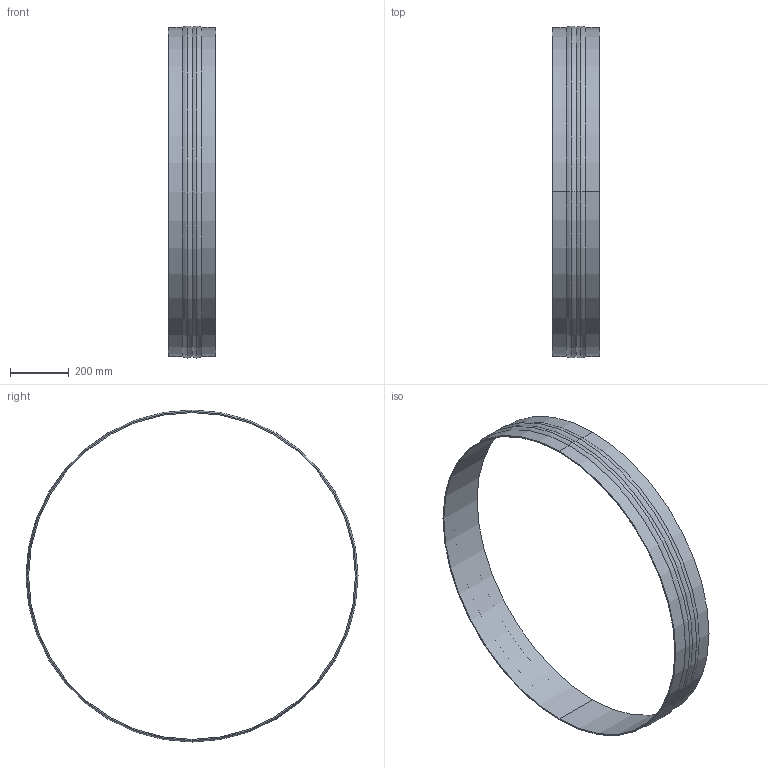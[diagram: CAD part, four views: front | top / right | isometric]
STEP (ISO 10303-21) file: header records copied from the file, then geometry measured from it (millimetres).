
FILE_DESCRIPTION(('STEP AP214'),'1');
FILE_NAME('accessory_5138892100.stp','2017-10-09T09:12:23',('TraceParts'),('TraceParts S.A.'),'Spatial InterOp 3D',' ',' ');
FILE_SCHEMA(('automotive_design'));
Length unit declared in the file: millimetre
Products named in the file (1): accessory_5138892100
Bounding box: 160 x 1129.6 x 1129.6 mm (x, y, z)
Volume: 3016326.5 mm3; surface area: 1163016.8 mm2
Topology: 1 solids, 1 shells, 16 faces, 32 edges, 18 vertices
Faces by surface type: torus 8, cylinder 6, plane 2
Entity records: 570 total; most frequent: DIRECTION 92, CARTESIAN_POINT 67, ORIENTED_EDGE 64, AXIS2_PLACEMENT_3D 43, EDGE_CURVE 32, CIRCLE 26, EDGE_LOOP 18, VERTEX_POINT 18
